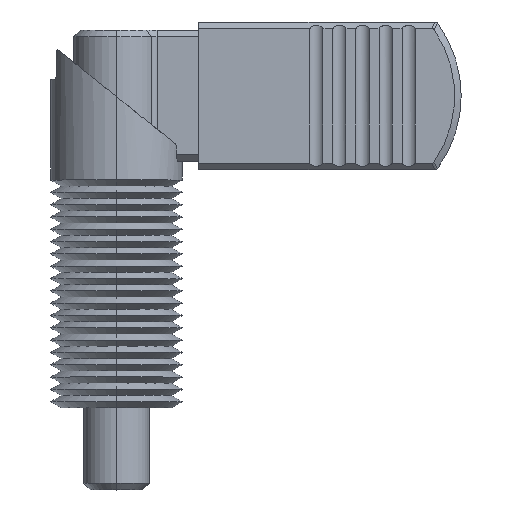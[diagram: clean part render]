
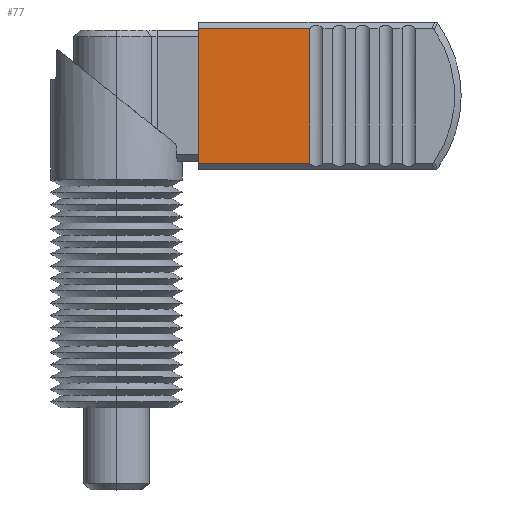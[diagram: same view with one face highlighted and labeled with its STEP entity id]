
A CAD part, top view. The second image highlights one B-rep face of the part: STEP entity #77.
In plain terms, the highlighted planar face has unit normal (0, 0, 1) as drawn and (-1, 0, 0) by its records, which use the part's own axes.
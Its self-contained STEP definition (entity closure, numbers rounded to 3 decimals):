
#61 = VERTEX_POINT ( 'NONE', #4735 ) ;
#65 = EDGE_CURVE ( 'NONE', #66, #61, #4730, .T. ) ;
#66 = VERTEX_POINT ( 'NONE', #4726 ) ;
#69 = ORIENTED_EDGE ( 'NONE', *, *, #73, .T. ) ;
#73 = EDGE_CURVE ( 'NONE', #240, #250, #4777, .T. ) ;
#74 = EDGE_LOOP ( 'NONE', ( #69, #243, #249, #6358 ) ) ;
#77 = ADVANCED_FACE ( 'NONE', ( #4772 ), #4771, .T. ) ;
#240 = VERTEX_POINT ( 'NONE', #5021 ) ;
#243 = ORIENTED_EDGE ( 'NONE', *, *, #248, .T. ) ;
#248 = EDGE_CURVE ( 'NONE', #250, #61, #5059, .T. ) ;
#249 = ORIENTED_EDGE ( 'NONE', *, *, #65, .F. ) ;
#250 = VERTEX_POINT ( 'NONE', #5055 ) ;
#2583 = DIRECTION ( 'NONE',  ( 0., 0., 1. ) ) ;
#2584 = VECTOR ( 'NONE', #2583, 1000. ) ;
#2585 = CARTESIAN_POINT ( 'NONE',  ( -3.6, -8.199, 29.001 ) ) ;
#2586 = LINE ( 'NONE', #2585, #2584 ) ;
#4726 = CARTESIAN_POINT ( 'NONE',  ( -3.6, -8.199, 0. ) ) ;
#4727 = DIRECTION ( 'NONE',  ( 0., 1., 0. ) ) ;
#4728 = VECTOR ( 'NONE', #4727, 1000. ) ;
#4729 = CARTESIAN_POINT ( 'NONE',  ( -3.6, -9., 0. ) ) ;
#4730 = LINE ( 'NONE', #4729, #4728 ) ;
#4735 = CARTESIAN_POINT ( 'NONE',  ( -3.6, 8.199, 0. ) ) ;
#4767 = DIRECTION ( 'NONE',  ( 0., 0., 1. ) ) ;
#4768 = DIRECTION ( 'NONE',  ( -1., 0., 0. ) ) ;
#4769 = CARTESIAN_POINT ( 'NONE',  ( -3.6, 0., 16.995 ) ) ;
#4770 = AXIS2_PLACEMENT_3D ( 'NONE', #4769, #4768, #4767 ) ;
#4771 = PLANE ( 'NONE',  #4770 ) ;
#4772 = FACE_OUTER_BOUND ( 'NONE', #74, .T. ) ;
#4774 = DIRECTION ( 'NONE',  ( 0., 1., 0. ) ) ;
#4775 = VECTOR ( 'NONE', #4774, 1000. ) ;
#4776 = CARTESIAN_POINT ( 'NONE',  ( -3.6, -9., 13.537 ) ) ;
#4777 = LINE ( 'NONE', #4776, #4775 ) ;
#5021 = CARTESIAN_POINT ( 'NONE',  ( -3.6, -8.199, 13.537 ) ) ;
#5055 = CARTESIAN_POINT ( 'NONE',  ( -3.6, 8.199, 13.537 ) ) ;
#5056 = DIRECTION ( 'NONE',  ( 0., 0., -1. ) ) ;
#5057 = VECTOR ( 'NONE', #5056, 1000. ) ;
#5058 = CARTESIAN_POINT ( 'NONE',  ( -3.6, 8.199, 0. ) ) ;
#5059 = LINE ( 'NONE', #5058, #5057 ) ;
#6357 = EDGE_CURVE ( 'NONE', #66, #240, #2586, .T. ) ;
#6358 = ORIENTED_EDGE ( 'NONE', *, *, #6357, .T. ) ;
